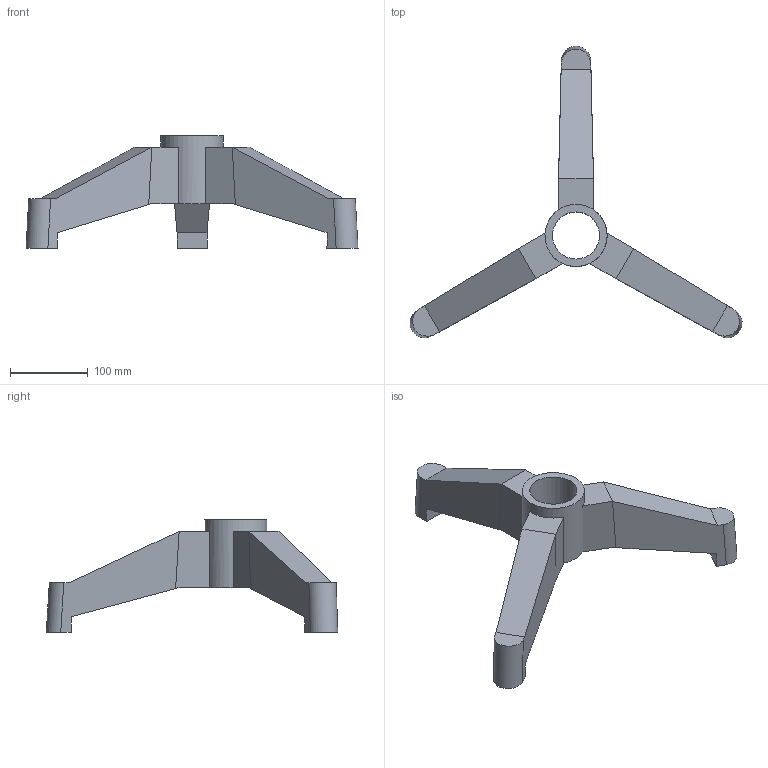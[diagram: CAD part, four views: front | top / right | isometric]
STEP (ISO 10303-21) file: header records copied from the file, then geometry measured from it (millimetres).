
FILE_DESCRIPTION(/* description */ ('山久'),/* implementation_level */ '2;1');
FILE_NAME(/* name */ 'C:\Users\Fujimoto-s\OneDrive\Inventor\WorkSpace\\X2\305D306E4ED6\X0\\ホームページ用\\X2\30C030A630F330ED30FC30C97D206750\X0\\コンベヤ部品\31015511\31015511.stp',/* time_stamp */ '2024-08-08T15:39:06+09:00',/* author */ ('Fujimoto-s'),/* organization */ (''),/* preprocessor_version */ 'ST-DEVELOPER v15.2',/* originating_system */ 'Autodesk Inventor 2014',/* authorisation */ '');
FILE_SCHEMA (('AUTOMOTIVE_DESIGN { 1 0 10303 214 3 1 1 }'));
Length unit declared in the file: millimetre
Products named in the file (1): 31015511
Bounding box: 426.76 x 374.7 x 145 mm (x, y, z)
Volume: 1728009.4 mm3; surface area: 173136.7 mm2
Topology: 1 solids, 1 shells, 43 faces, 114 edges, 73 vertices
Faces by surface type: plane 32, cylinder 8, cone 3
Full cylindrical faces by diameter (mm): 13.835 x3, 60.5 x1, 80 x1
Entity records: 1269 total; most frequent: CARTESIAN_POINT 215, DIRECTION 211, ORIENTED_EDGE 204, EDGE_CURVE 102, LINE 81, VECTOR 81, VERTEX_POINT 69, AXIS2_PLACEMENT_3D 65
